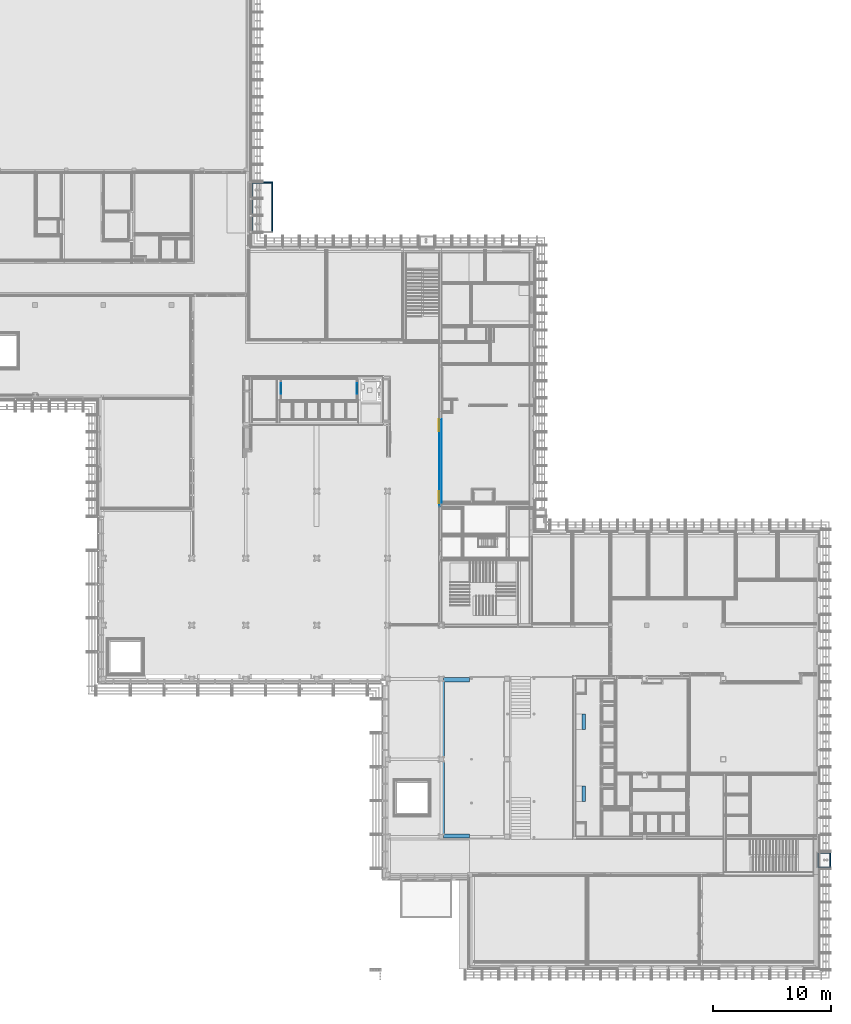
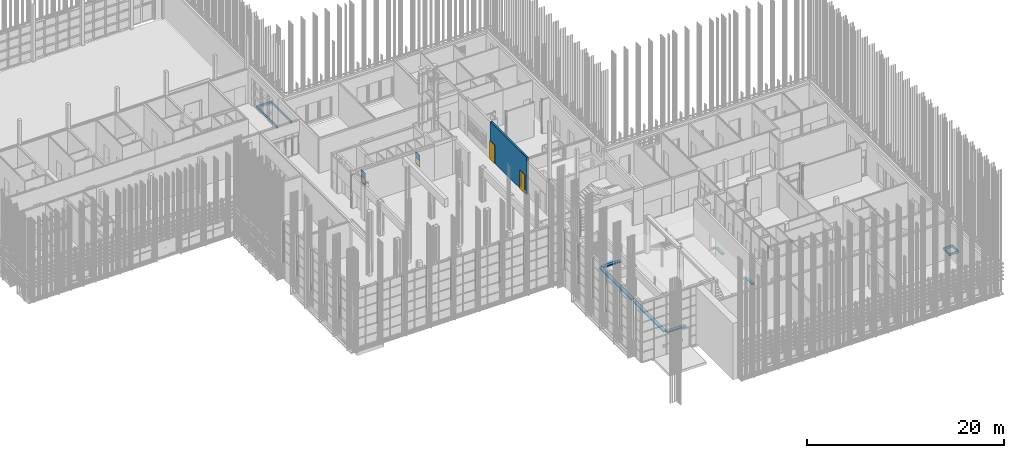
# One storey, part 58 of 260: 10 building element parts, 7 walls, 5 stairs, 4 doors, 4 openings, 3 elements without a shape of their own.
"""IFC2X3 building model written with IfcOpenShell, lengths in millimetres."""

from ifc_helpers import new_model, entity, si_unit, converted_unit, derived_unit, money_unit, direction, frame, origin_with_axes, place, context, subcontext, project, spatial, faceted_brep, source, transform, mapped, material, type_object, element, fill, aggregate, save


model = new_model("IFC2X3")

# Units and contexts
model_context = context("Model", 3, precision=0.01, world=origin_with_axes(), true_north=direction((0.0, 1.0)))
body_context = subcontext(model_context, "Body", "Model", "MODEL_VIEW")
ifc_project = project(units=[si_unit("LENGTHUNIT", "METRE", prefix="MILLI"), si_unit("AREAUNIT", "SQUARE_METRE"), si_unit("VOLUMEUNIT", "CUBIC_METRE"), converted_unit("PLANEANGLEUNIT", "DEGREE", entity("IfcPlaneAngleMeasure", 0.0174532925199), si_unit("PLANEANGLEUNIT", "RADIAN"), dimensions=[0, 0, 0, 0, 0, 0, 0]), money_unit("EUR"), converted_unit("TIMEUNIT", "Year", entity("IfcTimeMeasure", 31556926.0), si_unit("TIMEUNIT", "SECOND"), dimensions=[0, 0, 1, 0, 0, 0, 0]), si_unit("MASSUNIT", "GRAM", prefix="KILO"), si_unit("THERMODYNAMICTEMPERATUREUNIT", "DEGREE_CELSIUS"), si_unit("LUMINOUSINTENSITYUNIT", "LUMEN"), si_unit("ENERGYUNIT", "JOULE", prefix="MEGA"), derived_unit("THERMALCONDUCTANCEUNIT", [(si_unit("POWERUNIT", "WATT"), 1), (si_unit("LENGTHUNIT", "METRE"), -1), (si_unit("THERMODYNAMICTEMPERATUREUNIT", "KELVIN"), -1)]), derived_unit("SPECIFICHEATCAPACITYUNIT", [(si_unit("ENERGYUNIT", "JOULE"), 1), (si_unit("MASSUNIT", "GRAM", prefix="KILO"), -1), (si_unit("THERMODYNAMICTEMPERATUREUNIT", "KELVIN"), -1)]), derived_unit("MASSDENSITYUNIT", [(si_unit("MASSUNIT", "GRAM", prefix="KILO"), 1), (si_unit("VOLUMEUNIT", "CUBIC_METRE"), -1)])], contexts=[model_context])

# Site, building, storey
site_placement = place(None, origin_with_axes())
site = spatial("IfcSite", under=ifc_project, at=site_placement, Name="Kolde pst 67a", CompositionType="ELEMENT")
building_placement = place(site_placement, origin_with_axes())
building = spatial("IfcBuilding", under=site, at=building_placement, Name="Riigigümnaasium", CompositionType="ELEMENT")
storey_placement = place(building_placement, origin_with_axes())
storey = spatial("IfcBuildingStorey", under=building, at=storey_placement, Name="1. korrus", CompositionType="ELEMENT", Elevation=0.0)

# Door
door_style_1 = type_object("IfcDoorStyle", Name="Door 25", ConstructionType="NOTDEFINED", OperationType="SINGLE_SWING_LEFT", ParameterTakesPrecedence=False, Sizeable=False)
shared_shape_1 = source(origin_with_axes(), body_context, "Body", "Brep", [
    faceted_brep([(320.0, -40.0, 0.0), (320.0, -50.0, 0.0), (320.0, -50.0, 670.0), (320.0, -40.0, 670.0), (332.0, -40.0, 0.0), (332.0, 0.0, 0.0), (350.0, 0.0, 0.0), (350.0, -50.0, 0.0), (350.0, -50.0, 670.0), (332.0, -40.0, 670.0), (350.0, 0.0, 670.0), (332.0, 0.0, 670.0)], [[[0, 1, 2, 3]], [[4, 5, 6, 7, 1, 0]], [[1, 7, 8, 2]], [[9, 3, 2, 8, 10, 11]], [[9, 4, 0, 3]], [[11, 5, 4, 9]], [[11, 10, 6, 5]], [[6, 10, 8, 7]]]),
    faceted_brep([(-332.0, -40.0, 670.0), (-332.0, 0.0, 670.0), (-350.0, 0.0, 670.0), (-350.0, -50.0, 670.0), (-320.0, -50.0, 670.0), (-320.0, -40.0, 670.0), (-332.0, -40.0, 0.0), (-332.0, 0.0, 0.0), (-350.0, 0.0, 0.0), (-350.0, -50.0, 0.0), (-320.0, -50.0, 0.0), (-320.0, -40.0, 0.0)], [[[0, 1, 2, 3, 4, 5]], [[0, 6, 7, 1]], [[7, 8, 2, 1]], [[2, 8, 9, 3]], [[3, 9, 10, 4]], [[5, 4, 10, 11]], [[5, 11, 6, 0]], [[6, 11, 10, 9, 8, 7]]]),
    faceted_brep([(332.0, 0.0, 682.0), (-332.0, 0.0, 682.0), (-332.0, 0.0, 670.0), (-350.0, 0.0, 670.0), (-350.0, 0.0, 700.0), (350.0, 0.0, 700.0), (350.0, 0.0, 670.0), (332.0, 0.0, 670.0), (332.0, -40.0, 682.0), (-332.0, -40.0, 682.0), (-332.0, -40.0, 670.0), (-320.0, -40.0, 670.0), (-320.0, -50.0, 670.0), (-350.0, -50.0, 670.0), (-350.0, -50.0, 700.0), (350.0, -50.0, 700.0), (350.0, -50.0, 670.0), (332.0, -40.0, 670.0), (320.0, -50.0, 670.0), (320.0, -40.0, 670.0)], [[[0, 1, 2, 3, 4, 5, 6, 7]], [[0, 8, 9, 1]], [[1, 9, 10, 2]], [[10, 11, 12, 13, 3, 2]], [[4, 3, 13, 14]], [[5, 4, 14, 15]], [[6, 5, 15, 16]], [[17, 7, 6, 16, 18, 19]], [[7, 17, 8, 0]], [[10, 9, 8, 17, 19, 11]], [[19, 18, 12, 11]], [[12, 18, 16, 15, 14, 13]]]),
    faceted_brep([(-332.0, 0.0, 0.0), (332.0, 0.0, 0.0), (332.0, -40.0, 0.0), (-332.0, -40.0, 0.0), (-332.0, 0.0, 682.0), (332.0, 0.0, 682.0), (332.0, -40.0, 682.0), (-332.0, -40.0, 682.0)], [[[0, 1, 2, 3]], [[0, 4, 5, 1]], [[1, 5, 6, 2]], [[3, 2, 6, 7]], [[4, 0, 3, 7]], [[5, 4, 7, 6]]]),
])
wall_8_placement = place(storey_placement, frame((45614.9854607, 49219.999951, 0.0), z_axis=(0.0, 0.0, 1.0), x_axis=(0.0, -1.0, 0.0)))
opening_1_placement = place(wall_8_placement, frame((450.0, 0.0, 100.0), z_axis=(0.0, 0.0, 1.0), x_axis=(1.0, 0.0, 0.0)))
door_1_placement = place(opening_1_placement, frame((350.0, 0.0, 0.0), z_axis=(0.0, 0.0, 1.0), x_axis=(-1.0, 0.0, 0.0)))
door_1 = element("IfcDoor", 1, at=door_1_placement, inside=storey, type_object=door_style_1, Name="Hooldusluuk vastavalt SA osale", ObjectType="DOOR", OverallHeight=700.0, OverallWidth=700.0, context=body_context, shape_type="MappedRepresentation", body=[
    mapped(shared_shape_1, transform((350.0, 0.0, 0.0))),
])

door_style_2 = type_object("IfcDoorStyle", Name="Door 25", ConstructionType="NOTDEFINED", OperationType="SINGLE_SWING_RIGHT", ParameterTakesPrecedence=False, Sizeable=False)
shared_shape_2 = source(origin_with_axes(), body_context, "Body", "Brep", [
    faceted_brep([(-320.0, -40.0, 0.0), (-320.0, -40.0, 670.0), (-320.0, -50.0, 670.0), (-320.0, -50.0, 0.0), (-332.0, -40.0, 670.0), (-332.0, -40.0, 0.0), (-332.0, 0.0, 670.0), (-350.0, 0.0, 670.0), (-350.0, -50.0, 670.0), (-350.0, -50.0, 0.0), (-350.0, 0.0, 0.0), (-332.0, 0.0, 0.0)], [[[0, 1, 2, 3]], [[4, 1, 0, 5]], [[4, 6, 7, 8, 2, 1]], [[3, 2, 8, 9]], [[5, 0, 3, 9, 10, 11]], [[6, 4, 5, 11]], [[6, 11, 10, 7]], [[10, 9, 8, 7]]]),
    faceted_brep([(332.0, -40.0, 670.0), (320.0, -40.0, 670.0), (320.0, -50.0, 670.0), (350.0, -50.0, 670.0), (350.0, 0.0, 670.0), (332.0, 0.0, 670.0), (332.0, -40.0, 0.0), (320.0, -40.0, 0.0), (320.0, -50.0, 0.0), (350.0, -50.0, 0.0), (350.0, 0.0, 0.0), (332.0, 0.0, 0.0)], [[[0, 1, 2, 3, 4, 5]], [[1, 0, 6, 7]], [[1, 7, 8, 2]], [[3, 2, 8, 9]], [[4, 3, 9, 10]], [[11, 5, 4, 10]], [[0, 5, 11, 6]], [[6, 11, 10, 9, 8, 7]]]),
    faceted_brep([(-332.0, 0.0, 682.0), (-332.0, 0.0, 670.0), (-350.0, 0.0, 670.0), (-350.0, 0.0, 700.0), (350.0, 0.0, 700.0), (350.0, 0.0, 670.0), (332.0, 0.0, 670.0), (332.0, 0.0, 682.0), (-332.0, -40.0, 682.0), (-332.0, -40.0, 670.0), (-320.0, -40.0, 670.0), (-320.0, -50.0, 670.0), (-350.0, -50.0, 670.0), (-350.0, -50.0, 700.0), (350.0, -50.0, 700.0), (350.0, -50.0, 670.0), (332.0, -40.0, 670.0), (320.0, -50.0, 670.0), (320.0, -40.0, 670.0), (332.0, -40.0, 682.0)], [[[0, 1, 2, 3, 4, 5, 6, 7]], [[1, 0, 8, 9]], [[9, 10, 11, 12, 2, 1]], [[2, 12, 13, 3]], [[3, 13, 14, 4]], [[4, 14, 15, 5]], [[16, 6, 5, 15, 17, 18]], [[7, 6, 16, 19]], [[0, 7, 19, 8]], [[16, 18, 10, 9, 8, 19]], [[10, 18, 17, 11]], [[17, 15, 14, 13, 12, 11]]]),
    faceted_brep([(332.0, 0.0, 0.0), (332.0, -40.0, 0.0), (-332.0, -40.0, 0.0), (-332.0, 0.0, 0.0), (332.0, 0.0, 682.0), (332.0, -40.0, 682.0), (-332.0, -40.0, 682.0), (-332.0, 0.0, 682.0)], [[[0, 1, 2, 3]], [[4, 5, 1, 0]], [[1, 5, 6, 2]], [[3, 2, 6, 7]], [[0, 3, 7, 4]], [[7, 6, 5, 4]]]),
])
wall_9_placement = place(storey_placement, frame((39269.8305056, 49219.9999658, 0.0), z_axis=(0.0, 0.0, 1.0), x_axis=(0.0, -1.0, 0.0)))
opening_2_placement = place(wall_9_placement, frame((450.0, 0.0, 100.0), z_axis=(0.0, 0.0, 1.0), x_axis=(1.0, 0.0, 0.0)))
door_2_placement = place(opening_2_placement, frame((-350.0, 0.0, 0.0), z_axis=(0.0, 0.0, 1.0), x_axis=(1.0, 0.0, 0.0)))
door_2 = element("IfcDoor", 2, at=door_2_placement, inside=storey, type_object=door_style_2, Name="Hooldusluuk vastavalt SA osale", ObjectType="DOOR", OverallHeight=700.0, OverallWidth=700.0, context=body_context, shape_type="MappedRepresentation", body=[
    mapped(shared_shape_2, transform((350.0, 0.0, 0.0))),
])

# Walls
ifc_material_1 = material(Name="_KANDETARIND - monoliitne raudbetoon vastavalt EK osale")
wall_type_1 = type_object("IfcWallType", Name="_KANDETARIND - monoliitne raudbetoon vastavalt EK osale 100", PredefinedType="NOTDEFINED")
wall_1_placement = place(storey_placement, frame((38551.9992299, 66207.4898717, -302.0), z_axis=(0.0, 0.0, 1.0), x_axis=(-0.999999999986, -5.37580937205e-06, 0.0)))
element("IfcWall", 3, at=wall_1_placement, inside=storey, type_object=wall_type_1, material=ifc_material_1, Name="Porivann, monoliitne raudbetoon vastavalt EK osale", context=body_context, shape_type="Brep", body=[
    faceted_brep([(1799.99999997, 100.0, 0.0), (1799.99999997, 0.0, 0.0), (0.0, 0.0, 0.0), (0.0, 100.0, 0.0), (1799.99999997, 100.0, 280.0), (1799.99999997, 0.0, 280.0), (0.0, 0.0, 280.0), (0.0, 100.0, 280.0)], [[[0, 1, 2, 3]], [[1, 0, 4, 5]], [[1, 5, 6, 2]], [[7, 3, 2, 6]], [[4, 0, 3, 7]], [[5, 4, 7, 6]]]),
])
wall_2_placement = place(storey_placement, frame((36751.99923, 66207.4801952, -302.0), z_axis=(0.0, 0.0, 1.0), x_axis=(5.37580938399e-06, -0.999999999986, 0.0)))
element("IfcWall", 4, at=wall_2_placement, inside=storey, type_object=wall_type_1, material=ifc_material_1, Name="Porivann, monoliitne raudbetoon vastavalt EK osale", context=body_context, shape_type="Brep", body=[
    faceted_brep([(4289.60655819, 100.0, 0.0), (4289.60655819, 0.0, 0.0), (100.0, 0.0, 0.0), (100.0, 100.0, 0.0), (4289.60655819, 100.0, 280.0), (4289.60655819, 0.0, 280.0), (100.0, 0.0, 280.0), (100.0, 100.0, 280.0)], [[[0, 1, 2, 3]], [[1, 0, 4, 5]], [[1, 5, 6, 2]], [[7, 3, 2, 6]], [[4, 0, 3, 7]], [[5, 4, 7, 6]]]),
])
wall_3_placement = place(storey_placement, frame((38552.0222901, 61917.8833136, -302.0), z_axis=(0.0, 0.0, 1.0), x_axis=(-5.37580937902e-06, 0.999999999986, 0.0)))
element("IfcWall", 5, at=wall_3_placement, inside=storey, type_object=wall_type_1, material=ifc_material_1, Name="Porivann, monoliitne raudbetoon vastavalt EK osale", context=body_context, shape_type="Brep", body=[
    faceted_brep([(4189.60655819, 100.0, 0.0), (4189.60655819, 0.0, 0.0), (100.0, 0.0, 0.0), (100.0, 100.0, 0.0), (4189.60655819, 100.0, 280.0), (4189.60655819, 0.0, 280.0), (100.0, 0.0, 280.0), (100.0, 100.0, 280.0)], [[[0, 1, 2, 3]], [[1, 0, 4, 5]], [[1, 5, 6, 2]], [[7, 3, 2, 6]], [[4, 0, 3, 7]], [[5, 4, 7, 6]]]),
])
wall_4_placement = place(storey_placement, frame((85671.3335142, 9600.02374395, -302.0), z_axis=(0.0, 0.0, 1.0), x_axis=(-0.999999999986, -5.37580938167e-06, 0.0)))
element("IfcWall", 6, at=wall_4_placement, inside=storey, type_object=wall_type_1, material=ifc_material_1, Name="Porivann, monoliitne raudbetoon vastavalt EK osale", context=body_context, shape_type="Brep", body=[
    faceted_brep([(1119.96722448, 100.0, 0.0), (1119.96722448, 0.0, 0.0), (0.0, 0.0, 0.0), (0.0, 100.0, 0.0), (1119.96722448, 100.0, 280.0), (1119.96722448, 0.0, 280.0), (0.0, 0.0, 280.0), (0.0, 100.0, 280.0)], [[[0, 1, 2, 3]], [[1, 0, 4, 5]], [[1, 5, 6, 2]], [[7, 3, 2, 6]], [[4, 0, 3, 7]], [[5, 4, 7, 6]]]),
])
wall_5_placement = place(storey_placement, frame((84551.3662897, 9600.01772322, -302.0), z_axis=(0.0, 0.0, 1.0), x_axis=(5.3758093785e-06, -0.999999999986, 0.0)))
element("IfcWall", 7, at=wall_5_placement, inside=storey, type_object=wall_type_1, material=ifc_material_1, Name="Porivann, monoliitne raudbetoon vastavalt EK osale", context=body_context, shape_type="Brep", body=[
    faceted_brep([(1310.0000002, 100.0, 0.0), (1310.0000002, 0.0, 0.0), (100.0, 0.0, 0.0), (100.0, 100.0, 0.0), (1310.0000002, 100.0, 280.0), (1310.0000002, 0.0, 280.0), (100.0, 0.0, 280.0), (100.0, 100.0, 280.0)], [[[0, 1, 2, 3]], [[1, 0, 4, 5]], [[1, 5, 6, 2]], [[7, 3, 2, 6]], [[4, 0, 3, 7]], [[5, 4, 7, 6]]]),
])
wall_6_placement = place(storey_placement, frame((84551.373332, 8290.01772304, -302.0), z_axis=(0.0, 0.0, 1.0), x_axis=(0.999999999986, 5.37580939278e-06, 0.0)))
element("IfcWall", 8, at=wall_6_placement, inside=storey, type_object=wall_type_1, material=ifc_material_1, Name="Porivann, monoliitne raudbetoon vastavalt EK osale", context=body_context, shape_type="Brep", body=[
    faceted_brep([(1119.96722448, 99.9939792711, 0.0), (1119.96722448, -0.00602073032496, 0.0), (100.0, -0.000537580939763, 0.0), (100.0, 99.9994624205, 0.0), (1119.96722448, 99.9939792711, 280.0), (1119.96722448, -0.00602073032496, 280.0), (100.0, -0.000537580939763, 280.0), (100.0, 99.9994624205, 280.0)], [[[0, 1, 2, 3]], [[1, 0, 4, 5]], [[1, 5, 6, 2]], [[7, 3, 2, 6]], [[4, 0, 3, 7]], [[5, 4, 7, 6]]]),
])
wall_7_placement = place(storey_placement, frame((85671.3405565, 8290.02374377, -302.0), z_axis=(0.0, 0.0, 1.0), x_axis=(-5.3758093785e-06, 0.999999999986, 0.0)))
element("IfcWall", 9, at=wall_7_placement, inside=storey, type_object=wall_type_1, material=ifc_material_1, Name="Porivann, monoliitne raudbetoon vastavalt EK osale", context=body_context, shape_type="Brep", body=[
    faceted_brep([(1210.0000002, 100.0, 0.0), (1210.0000002, 0.0, 0.0), (100.0, 0.0, 0.0), (100.0, 100.0, 0.0), (1210.0000002, 100.0, 280.0), (1210.0000002, 0.0, 280.0), (100.0, 0.0, 280.0), (100.0, 100.0, 280.0)], [[[0, 1, 2, 3]], [[1, 0, 4, 5]], [[1, 5, 6, 2]], [[7, 3, 2, 6]], [[4, 0, 3, 7]], [[5, 4, 7, 6]]]),
])

# Door
door_style_3 = type_object("IfcDoorStyle", Name="Exterior Sliding Door 25", ConstructionType="NOTDEFINED", OperationType="SLIDING_TO_LEFT", ParameterTakesPrecedence=False, Sizeable=False)
shared_shape_3 = source(origin_with_axes(), body_context, "Body", "Brep", [
    faceted_brep([(480.0, 5.0, 940.0), (480.0, -5.0, 940.0), (420.0, -5.0, 940.0), (420.0, 5.0, 940.0), (480.0, 5.0, 1060.0), (480.0, -5.0, 1060.0), (420.0, -5.0, 1060.0), (470.0, -5.0, 955.0), (430.0, -5.0, 955.0), (430.0, -5.0, 1045.0), (470.0, -5.0, 1045.0), (420.0, 5.0, 1060.0), (470.0, 5.0, 955.0), (470.0, 5.0, 1045.0), (430.0, 5.0, 1045.0), (430.0, 5.0, 955.0)], [[[0, 1, 2, 3]], [[4, 5, 1, 0]], [[1, 5, 6, 2], [7, 8, 9, 10]], [[3, 2, 6, 11]], [[0, 3, 11, 4], [12, 13, 14, 15]], [[11, 6, 5, 4]], [[15, 8, 7, 12]], [[14, 9, 8, 15]], [[13, 10, 9, 14]], [[12, 7, 10, 13]]]),
    faceted_brep([(470.0, 5.0, 955.0), (470.0, -5.0, 955.0), (430.0, 2.0, 955.0), (430.0, 5.0, 955.0), (470.0, 5.0, 1045.0), (470.0, -5.0, 1045.0), (430.0, 2.0, 1045.0), (430.0, 5.0, 1045.0)], [[[0, 1, 2, 3]], [[4, 5, 1, 0]], [[1, 5, 6, 2]], [[3, 2, 6, 7]], [[0, 3, 7, 4]], [[7, 6, 5, 4]]]),
    faceted_brep([(480.0, 45.0, 940.0), (420.0, 45.0, 940.0), (420.0, 55.0, 940.0), (480.0, 55.0, 940.0), (480.0, 45.0, 1060.0), (420.0, 45.0, 1060.0), (470.0, 45.0, 955.0), (430.0, 45.0, 955.0), (430.0, 45.0, 1045.0), (470.0, 45.0, 1045.0), (420.0, 55.0, 1060.0), (480.0, 55.0, 1060.0), (470.0, 55.0, 955.0), (470.0, 55.0, 1045.0), (430.0, 55.0, 1045.0), (430.0, 55.0, 955.0)], [[[0, 1, 2, 3]], [[0, 4, 5, 1], [6, 7, 8, 9]], [[1, 5, 10, 2]], [[3, 2, 10, 11], [12, 13, 14, 15]], [[4, 0, 3, 11]], [[5, 4, 11, 10]], [[7, 6, 12, 15]], [[8, 7, 15, 14]], [[9, 8, 14, 13]], [[6, 9, 13, 12]]]),
    faceted_brep([(470.0, 45.0, 955.0), (430.0, 45.0, 955.0), (430.0, 48.0, 955.0), (470.0, 55.0, 955.0), (470.0, 45.0, 1045.0), (430.0, 45.0, 1045.0), (430.0, 48.0, 1045.0), (470.0, 55.0, 1045.0)], [[[0, 1, 2, 3]], [[0, 4, 5, 1]], [[1, 5, 6, 2]], [[3, 2, 6, 7]], [[4, 0, 3, 7]], [[5, 4, 7, 6]]]),
    faceted_brep([(-500.0, 45.0, 0.0), (500.0, 45.0, 0.0), (500.0, 5.0, 0.0), (-500.0, 5.0, 0.0), (-500.0, 45.0, 2300.0), (500.0, 45.0, 2300.0), (500.0, 5.0, 2300.0), (-500.0, 5.0, 2300.0)], [[[0, 1, 2, 3]], [[0, 4, 5, 1]], [[1, 5, 6, 2]], [[3, 2, 6, 7]], [[4, 0, 3, 7]], [[5, 4, 7, 6]]]),
])
wall_10_placement = place(storey_placement, frame((52829.9941222, 46149.9999914, 0.0), z_axis=(0.0, 0.0, 1.0), x_axis=(0.0, -1.0, 0.0)))
opening_3_placement = place(wall_10_placement, frame((6561.60544355, 0.0, 0.0), z_axis=(0.0, 0.0, 1.0), x_axis=(1.0, 0.0, 0.0)))
door_3_placement = place(opening_3_placement, frame((500.0, 0.0, 0.0), z_axis=(0.0, 0.0, 1.0), x_axis=(-1.0, 0.0, 0.0)))
door_3 = element("IfcDoor", 10, at=door_3_placement, inside=storey, type_object=door_style_3, Name="Siseuks", ObjectType="DOOR", OverallHeight=2300.0, OverallWidth=1000.0, context=body_context, shape_type="MappedRepresentation", body=[
    mapped(shared_shape_3, transform((500.0, 240.0, 0.0))),
])

opening_4_placement = place(wall_10_placement, frame((500.0, 0.0, 0.0), z_axis=(0.0, 0.0, 1.0), x_axis=(1.0, 0.0, 0.0)))
door_4_placement = place(opening_4_placement, frame((500.0, 0.0, 0.0), z_axis=(0.0, 0.0, 1.0), x_axis=(-1.0, 0.0, 0.0)))
door_4 = element("IfcDoor", 11, at=door_4_placement, inside=storey, type_object=door_style_3, Name="Siseuks", ObjectType="DOOR", OverallHeight=2300.0, OverallWidth=1000.0, context=body_context, shape_type="MappedRepresentation", body=[
    mapped(shared_shape_3, transform((500.0, 240.0, 0.0))),
])

# Stairs
ifc_material_2 = material(Name="_KANDETARIND - monoliitne raudbetoonplaat")
stair_1_placement = place(storey_placement, frame((52659.9941007, 11089.9619407, -150.0), z_axis=(0.0, 0.0, 1.0), x_axis=(1.0, 0.0, 0.0)))
element("IfcStair", 12, at=stair_1_placement, inside=storey, material=ifc_material_2, Name="Aste", ShapeType="NOTDEFINED", context=body_context, shape_type="Brep", body=[
    faceted_brep([(0.0, 0.0, 0.0), (0.0, 0.0, -150.0), (370.000005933, 0.0, -150.0), (370.000005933, 0.0, 0.0), (0.0, 6170.03803351, 0.0), (0.0, 6170.03803351, -150.0), (370.000005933, 6170.03803351, -150.0), (370.000005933, 6170.03803351, 0.0)], [[[0, 1, 2, 3]], [[4, 5, 1, 0]], [[2, 1, 5, 6]], [[3, 2, 6, 7]], [[4, 0, 3, 7]], [[7, 6, 5, 4]]]),
])
stair_2_placement = place(storey_placement, frame((52659.9941222, 17639.9999739, -150.0), z_axis=(0.0, 0.0, 1.0), x_axis=(1.0, 0.0, 0.0)))
element("IfcStair", 13, at=stair_2_placement, inside=storey, material=ifc_material_2, Name="Aste", ShapeType="NOTDEFINED", context=body_context, shape_type="Brep", body=[
    faceted_brep([(0.0, 0.0, 0.0), (0.0, 0.0, -150.0), (369.999984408, 0.0, -150.0), (369.999984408, 0.0, 0.0), (0.0, 6400.0380618, 0.0), (0.0, 6400.0380618, -150.0), (310.000038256, 6400.0380618, -150.0), (310.000038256, 6709.99656003, -150.0), (2509.98799005, 6709.99656003, -150.0), (2509.98799005, 6349.99658318, -150.0), (369.999984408, 6349.99658318, -150.0), (369.999984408, 6349.99658318, 0.0), (2509.98799005, 6349.99658318, 0.0), (2509.98799005, 6709.99656003, 0.0), (310.000038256, 6709.99656003, 0.0), (310.000038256, 6400.0380618, 0.0)], [[[0, 1, 2, 3]], [[4, 5, 1, 0]], [[2, 1, 5, 6, 7, 8, 9, 10]], [[3, 2, 10, 11]], [[4, 0, 3, 11, 12, 13, 14, 15]], [[15, 6, 5, 4]], [[14, 7, 6, 15]], [[13, 8, 7, 14]], [[12, 9, 8, 13]], [[11, 10, 9, 12]]]),
])
ifc_material_3 = material(Name="_PEALEVALUKIHT - raudbetoon plaat, C25/30, XF2")
stair_3_placement = place(storey_placement, frame((55169.7609261, 10779.9619416, -150.0), z_axis=(0.0, 0.0, 1.0), x_axis=(1.0, 0.0, 0.0)))
element("IfcStair", 14, at=stair_3_placement, inside=storey, material=ifc_material_3, Name="Aste", ShapeType="NOTDEFINED", context=body_context, shape_type="Brep", body=[
    faceted_brep([(0.0, 0.0, 0.0), (0.0, 0.0, -150.0), (0.0, 369.999999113, -150.0), (0.0, 369.999999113, 0.0), (-2199.76680385, 0.0, 0.0), (-2199.76680385, 0.0, -150.0), (-2199.76680385, 369.999999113, -150.0), (-2199.76680385, 369.999999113, 0.0)], [[[0, 1, 2, 3]], [[4, 5, 1, 0]], [[2, 1, 5, 6]], [[3, 2, 6, 7]], [[4, 0, 3, 7]], [[7, 6, 5, 4]]]),
])
stair_4_placement = place(storey_placement, frame((64939.8555372, 21270.0313204, -150.0), z_axis=(0.0, 0.0, 1.0), x_axis=(1.0, 0.0, 0.0)))
element("IfcStair", 15, at=stair_4_placement, inside=storey, material=ifc_material_3, Name="Aste", ShapeType="NOTDEFINED", context=body_context, shape_type="Brep", body=[
    faceted_brep([(0.0, 0.0, 0.0), (0.0, 0.0, -150.0), (-299.999999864, -0.00902386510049, -150.0), (-299.999999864, -0.00902386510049, 0.0), (0.039102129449, -1299.95724717, 0.0), (0.039102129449, -1299.95724717, -150.0), (-299.960897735, -1299.96627104, -150.0), (-299.960897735, -1299.96627104, 0.0)], [[[0, 1, 2, 3]], [[4, 5, 1, 0]], [[2, 1, 5, 6]], [[3, 2, 6, 7]], [[4, 0, 3, 7]], [[7, 6, 5, 4]]]),
])
stair_5_placement = place(storey_placement, frame((64939.9488957, 15169.986307, -150.0), z_axis=(0.0, 0.0, 1.0), x_axis=(1.0, 0.0, 0.0)))
element("IfcStair", 16, at=stair_5_placement, inside=storey, material=ifc_material_3, Name="Aste", ShapeType="NOTDEFINED", context=body_context, shape_type="Brep", body=[
    faceted_brep([(0.0, 0.0, 0.0), (0.0, 0.0, -150.0), (-299.999999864, -0.00902386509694, -150.0), (-299.999999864, -0.00902386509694, 0.0), (0.0391034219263, -1300.00021578, 0.0), (0.0391034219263, -1300.00021578, -150.0), (-299.960896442, -1300.00923964, -150.0), (-299.960896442, -1300.00923964, 0.0)], [[[0, 1, 2, 3]], [[4, 5, 1, 0]], [[2, 1, 5, 6]], [[3, 2, 6, 7]], [[4, 0, 3, 7]], [[7, 6, 5, 4]]]),
])

# Wall, opening
wall_type_2 = type_object("IfcWallType", Name="SS-MK-10/11_kollektorvarisein plaaditud 40", PredefinedType="NOTDEFINED")
wall_8 = element("IfcWall", 17, at=wall_8_placement, inside=storey, type_object=wall_type_2, Name="Sisesein")
opening_1 = element("IfcOpeningElement", 18, at=opening_1_placement, cuts=wall_8, Name="Hooldusluuk vastavalt SA osale", context=body_context, shape_type="Brep", body=[
    faceted_brep([(350.0, -80.0, 700.0), (350.0, -80.0, 0.0), (350.0, 40.0, 0.0), (350.0, 40.0, 700.0), (-350.0, -80.0, 700.0), (-350.0, -80.0, 0.0), (-350.0, 40.0, 0.0), (-350.0, 40.0, 700.0)], [[[0, 1, 2, 3]], [[0, 4, 5, 1]], [[1, 5, 6, 2]], [[3, 2, 6, 7]], [[4, 0, 3, 7]], [[5, 4, 7, 6]]]),
])

fill(opening_1, door_1)

# Building element part
ifc_material_4 = material(Name="_PLAATMATERJAL - kipsplaat veekindel")
building_element_part_1_placement = place(wall_8_placement, origin_with_axes())
building_element_part_1 = element("IfcBuildingElementPart", 19, at=building_element_part_1_placement, material=ifc_material_4, Name="_PLAATMATERJAL - kipsplaat veekindel", context=body_context, shape_type="Brep", body=[
    faceted_brep([(900.000018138, 27.5, 1500.0), (0.0, 27.5, 1500.0), (0.0, 27.5, 0.0), (900.000018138, 27.5, 0.0), (800.0, 27.5, 100.0), (100.0, 27.5, 100.0), (100.0, 27.5, 800.0), (800.0, 27.5, 800.0), (900.000018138, 40.0, 1500.0), (0.0, 40.0, 1500.0), (0.0, 40.0, 0.0), (900.000018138, 40.0, 0.0), (800.0, 40.0, 100.0), (100.0, 40.0, 100.0), (100.0, 40.0, 800.0), (800.0, 40.0, 800.0)], [[[0, 1, 2, 3], [4, 5, 6, 7]], [[8, 9, 1, 0]], [[2, 1, 9, 10]], [[3, 2, 10, 11]], [[8, 0, 3, 11]], [[12, 13, 5, 4]], [[13, 14, 6, 5]], [[14, 15, 7, 6]], [[15, 12, 4, 7]], [[11, 10, 9, 8], [12, 15, 14, 13]]]),
])

building_element_part_2_placement = place(wall_8_placement, origin_with_axes())
building_element_part_2 = element("IfcBuildingElementPart", 20, at=building_element_part_2_placement, material=ifc_material_4, Name="_PLAATMATERJAL - kipsplaat veekindel", context=body_context, shape_type="Brep", body=[
    faceted_brep([(900.000018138, 15.0, 1500.0), (0.0, 15.0, 1500.0), (0.0, 15.0, 0.0), (900.000018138, 15.0, 0.0), (800.0, 15.0, 100.0), (100.0, 15.0, 100.0), (100.0, 15.0, 800.0), (800.0, 15.0, 800.0), (900.000018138, 27.5, 1500.0), (0.0, 27.5, 1500.0), (0.0, 27.5, 0.0), (900.000018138, 27.5, 0.0), (800.0, 27.5, 100.0), (100.0, 27.5, 100.0), (100.0, 27.5, 800.0), (800.0, 27.5, 800.0)], [[[0, 1, 2, 3], [4, 5, 6, 7]], [[8, 9, 1, 0]], [[2, 1, 9, 10]], [[3, 2, 10, 11]], [[8, 0, 3, 11]], [[12, 13, 5, 4]], [[13, 14, 6, 5]], [[14, 15, 7, 6]], [[15, 12, 4, 7]], [[11, 10, 9, 8], [12, 15, 14, 13]]]),
])

ifc_material_5 = material(Name="_VIIMISTLUSKIHT - viimistlus vastavalt SA osale")
building_element_part_3_placement = place(wall_8_placement, origin_with_axes())
building_element_part_3 = element("IfcBuildingElementPart", 21, at=building_element_part_3_placement, material=ifc_material_5, Name="_VIIMISTLUSKIHT - viimistlus vastavalt SA osale", context=body_context, shape_type="Brep", body=[
    faceted_brep([(900.000018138, 0.0, 1500.0), (0.0, 0.0, 1500.0), (0.0, 0.0, 0.0), (900.000018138, 0.0, 0.0), (800.0, 0.0, 100.0), (100.0, 0.0, 100.0), (100.0, 0.0, 800.0), (800.0, 0.0, 800.0), (900.000018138, 15.0, 1500.0), (0.0, 15.0, 1500.0), (0.0, 15.0, 0.0), (900.000018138, 15.0, 0.0), (800.0, 15.0, 100.0), (100.0, 15.0, 100.0), (100.0, 15.0, 800.0), (800.0, 15.0, 800.0)], [[[0, 1, 2, 3], [4, 5, 6, 7]], [[8, 9, 1, 0]], [[2, 1, 9, 10]], [[3, 2, 10, 11]], [[8, 0, 3, 11]], [[12, 13, 5, 4]], [[13, 14, 6, 5]], [[14, 15, 7, 6]], [[15, 12, 4, 7]], [[11, 10, 9, 8], [12, 15, 14, 13]]]),
])

aggregate(wall_8, [building_element_part_1, building_element_part_2, building_element_part_3])

# Wall, opening
wall_9 = element("IfcWall", 22, at=wall_9_placement, inside=storey, type_object=wall_type_2, Name="Sisesein")
opening_2 = element("IfcOpeningElement", 23, at=opening_2_placement, cuts=wall_9, Name="Hooldusluuk vastavalt SA osale", context=body_context, shape_type="Brep", body=[
    faceted_brep([(350.0, -40.0, 700.0), (350.0, -40.0, 0.0), (350.0, 80.0, 0.0), (350.0, 80.0, 700.0), (-350.0, -40.0, 700.0), (-350.0, -40.0, 0.0), (-350.0, 80.0, 0.0), (-350.0, 80.0, 700.0)], [[[0, 1, 2, 3]], [[0, 4, 5, 1]], [[1, 5, 6, 2]], [[3, 2, 6, 7]], [[4, 0, 3, 7]], [[5, 4, 7, 6]]]),
])

fill(opening_2, door_2)

# Building element part
building_element_part_4_placement = place(wall_9_placement, origin_with_axes())
building_element_part_4 = element("IfcBuildingElementPart", 24, at=building_element_part_4_placement, material=ifc_material_5, Name="_VIIMISTLUSKIHT - viimistlus vastavalt SA osale", context=body_context, shape_type="Brep", body=[
    faceted_brep([(900.000018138, -15.0, 1500.0), (0.0, -15.0, 1500.0), (0.0, -15.0, 0.0), (900.000018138, -15.0, 0.0), (800.0, -15.0, 100.0), (100.0, -15.0, 100.0), (100.0, -15.0, 800.0), (800.0, -15.0, 800.0), (900.000018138, 0.0, 1500.0), (0.0, 0.0, 1500.0), (0.0, 0.0, 0.0), (900.000018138, 0.0, 0.0), (800.0, 0.0, 100.0), (100.0, 0.0, 100.0), (100.0, 0.0, 800.0), (800.0, 0.0, 800.0)], [[[0, 1, 2, 3], [4, 5, 6, 7]], [[8, 9, 1, 0]], [[9, 10, 2, 1]], [[3, 2, 10, 11]], [[3, 11, 8, 0]], [[12, 13, 5, 4]], [[13, 14, 6, 5]], [[14, 15, 7, 6]], [[15, 12, 4, 7]], [[11, 10, 9, 8], [12, 15, 14, 13]]]),
])

building_element_part_5_placement = place(wall_9_placement, origin_with_axes())
building_element_part_5 = element("IfcBuildingElementPart", 25, at=building_element_part_5_placement, material=ifc_material_4, Name="_PLAATMATERJAL - kipsplaat veekindel", context=body_context, shape_type="Brep", body=[
    faceted_brep([(900.000018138, -27.5, 1500.0), (0.0, -27.5, 1500.0), (0.0, -27.5, 0.0), (900.000018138, -27.5, 0.0), (800.0, -27.5, 100.0), (100.0, -27.5, 100.0), (100.0, -27.5, 800.0), (800.0, -27.5, 800.0), (900.000018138, -15.0, 1500.0), (0.0, -15.0, 1500.0), (0.0, -15.0, 0.0), (900.000018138, -15.0, 0.0), (800.0, -15.0, 100.0), (100.0, -15.0, 100.0), (100.0, -15.0, 800.0), (800.0, -15.0, 800.0)], [[[0, 1, 2, 3], [4, 5, 6, 7]], [[8, 9, 1, 0]], [[9, 10, 2, 1]], [[3, 2, 10, 11]], [[3, 11, 8, 0]], [[12, 13, 5, 4]], [[13, 14, 6, 5]], [[14, 15, 7, 6]], [[15, 12, 4, 7]], [[11, 10, 9, 8], [12, 15, 14, 13]]]),
])

building_element_part_6_placement = place(wall_9_placement, origin_with_axes())
building_element_part_6 = element("IfcBuildingElementPart", 26, at=building_element_part_6_placement, material=ifc_material_4, Name="_PLAATMATERJAL - kipsplaat veekindel", context=body_context, shape_type="Brep", body=[
    faceted_brep([(900.000018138, -40.0, 1500.0), (0.0, -40.0, 1500.0), (0.0, -40.0, 0.0), (900.000018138, -40.0, 0.0), (800.0, -40.0, 100.0), (100.0, -40.0, 100.0), (100.0, -40.0, 800.0), (800.0, -40.0, 800.0), (900.000018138, -27.5, 1500.0), (0.0, -27.5, 1500.0), (0.0, -27.5, 0.0), (900.000018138, -27.5, 0.0), (800.0, -27.5, 100.0), (100.0, -27.5, 100.0), (100.0, -27.5, 800.0), (800.0, -27.5, 800.0)], [[[0, 1, 2, 3], [4, 5, 6, 7]], [[8, 9, 1, 0]], [[9, 10, 2, 1]], [[3, 2, 10, 11]], [[3, 11, 8, 0]], [[12, 13, 5, 4]], [[13, 14, 6, 5]], [[14, 15, 7, 6]], [[15, 12, 4, 7]], [[11, 10, 9, 8], [12, 15, 14, 13]]]),
])

aggregate(wall_9, [building_element_part_4, building_element_part_5, building_element_part_6])

# Wall, opening
wall_type_3 = type_object("IfcWallType", Name="SS-RB-20/3_+krohv+dold 240", PredefinedType="NOTDEFINED")
wall_10 = element("IfcWall", 27, at=wall_10_placement, inside=storey, type_object=wall_type_3, Name="Sisesein")
opening_3 = element("IfcOpeningElement", 28, at=opening_3_placement, cuts=wall_10, Name="Siseuks", context=body_context, shape_type="Brep", body=[
    faceted_brep([(500.0, -480.0, 2300.0), (500.0, -480.0, 0.0), (500.0, 240.0, 0.0), (500.0, 240.0, 2300.0), (-500.0, -480.0, 2300.0), (-500.0, -480.0, 0.0), (-500.0, 240.0, 0.0), (-500.0, 240.0, 2300.0)], [[[0, 1, 2, 3]], [[0, 4, 5, 1]], [[1, 5, 6, 2]], [[3, 2, 6, 7]], [[4, 0, 3, 7]], [[5, 4, 7, 6]]]),
])

fill(opening_3, door_3)

# Opening
opening_4 = element("IfcOpeningElement", 29, at=opening_4_placement, cuts=wall_10, Name="Siseuks", context=body_context, shape_type="Brep", body=[
    faceted_brep([(500.0, -480.0, 2300.0), (500.0, -480.0, 0.0), (500.0, 240.0, 0.0), (500.0, 240.0, 2300.0), (-500.0, -480.0, 2300.0), (-500.0, -480.0, 0.0), (-500.0, 240.0, 0.0), (-500.0, 240.0, 2300.0)], [[[0, 1, 2, 3]], [[0, 4, 5, 1]], [[1, 5, 6, 2]], [[3, 2, 6, 7]], [[4, 0, 3, 7]], [[5, 4, 7, 6]]]),
])

fill(opening_4, door_4)

# Building element part
building_element_part_7_placement = place(wall_10_placement, origin_with_axes())
building_element_part_7 = element("IfcBuildingElementPart", 30, at=building_element_part_7_placement, material=ifc_material_5, Name="_VIIMISTLUSKIHT - viimistlus vastavalt SA osale", context=body_context, shape_type="Brep", body=[
    faceted_brep([(1000.0, 0.0, 0.0), (1000.0, 0.0, 2300.0), (0.0, 0.0, 2300.0), (0.0, 0.0, 4600.0), (7376.13222737, 0.0, 4600.0), (7376.13222737, 0.0, 0.0), (7061.60544355, 0.0, 0.0), (7061.60544355, 0.0, 2300.0), (6061.60544355, 0.0, 2300.0), (6061.60544355, 0.0, 0.0), (1000.0, -10.0, 0.0), (1000.0, -10.0, 2300.0), (0.0, -10.0, 2300.0), (0.0, -10.0, 4600.0), (7376.13222737, -10.0, 4600.0), (7376.13222737, -10.0, 0.0), (7061.60544355, -10.0, 0.0), (7061.60544355, -10.0, 2300.0), (6061.60544355, -10.0, 2300.0), (6061.60544355, -10.0, 0.0)], [[[0, 1, 2, 3, 4, 5, 6, 7, 8, 9]], [[1, 0, 10, 11]], [[12, 2, 1, 11]], [[2, 12, 13, 3]], [[3, 13, 14, 4]], [[5, 4, 14, 15]], [[6, 5, 15, 16]], [[6, 16, 17, 7]], [[7, 17, 18, 8]], [[8, 18, 19, 9]], [[10, 0, 9, 19]], [[11, 10, 19, 18, 17, 16, 15, 14, 13, 12]]]),
])

ifc_material_6 = material(Name="_KANDETARIND - monteeritav raudbetoon vastavalt EK osale")
building_element_part_8_placement = place(wall_10_placement, origin_with_axes())
building_element_part_8 = element("IfcBuildingElementPart", 31, at=building_element_part_8_placement, material=ifc_material_6, Name="_KANDETARIND - monteeritav raudbetoon vastavalt EK osale", context=body_context, shape_type="Brep", body=[
    faceted_brep([(1000.0, -10.0, 0.0), (1000.0, -10.0, 2300.0), (0.0, -10.0, 2300.0), (0.0, -10.0, 4600.0), (7376.13222737, -10.0, 4600.0), (7376.13222737, -10.0, 0.0), (7061.60544355, -10.0, 0.0), (7061.60544355, -10.0, 2300.0), (6061.60544355, -10.0, 2300.0), (6061.60544355, -10.0, 0.0), (1000.0, -210.0, 0.0), (1000.0, -210.0, 2300.0), (0.0, -210.0, 2300.0), (0.0, -210.0, 4600.0), (7376.13222737, -210.0, 4600.0), (7376.13222737, -210.0, 0.0), (7061.60544355, -210.0, 0.0), (7061.60544355, -210.0, 2300.0), (6061.60544355, -210.0, 2300.0), (6061.60544355, -210.0, 0.0)], [[[0, 1, 2, 3, 4, 5, 6, 7, 8, 9]], [[1, 0, 10, 11]], [[12, 2, 1, 11]], [[2, 12, 13, 3]], [[3, 13, 14, 4]], [[5, 4, 14, 15]], [[6, 5, 15, 16]], [[6, 16, 17, 7]], [[7, 17, 18, 8]], [[8, 18, 19, 9]], [[10, 0, 9, 19]], [[11, 10, 19, 18, 17, 16, 15, 14, 13, 12]]]),
])

ifc_material_7 = material(Name="_KARKASS - eriprofiilkinnitus vastavalt sisemisele plaatviimistlusele")
building_element_part_9_placement = place(wall_10_placement, origin_with_axes())
building_element_part_9 = element("IfcBuildingElementPart", 32, at=building_element_part_9_placement, material=ifc_material_7, Name="_KARKASS - eriprofiilkinnitus vastavalt sisemisele plaatviimistlusele", context=body_context, shape_type="Brep", body=[
    faceted_brep([(1000.0, -210.0, 0.0), (1000.0, -210.0, 2300.0), (0.0, -210.0, 2300.0), (0.0, -210.0, 4600.0), (7376.13222737, -210.0, 4600.0), (7376.13222737, -210.0, 0.0), (7061.60544355, -210.0, 0.0), (7061.60544355, -210.0, 2300.0), (6061.60544355, -210.0, 2300.0), (6061.60544355, -210.0, 0.0), (1000.0, -220.0, 0.0), (1000.0, -220.0, 2300.0), (0.0, -220.0, 2300.0), (0.0, -220.0, 4600.0), (7376.13222737, -220.0, 4600.0), (7376.13222737, -220.0, 0.0), (7061.60544355, -220.0, 0.0), (7061.60544355, -220.0, 2300.0), (6061.60544355, -220.0, 2300.0), (6061.60544355, -220.0, 0.0)], [[[0, 1, 2, 3, 4, 5, 6, 7, 8, 9]], [[1, 0, 10, 11]], [[12, 2, 1, 11]], [[2, 12, 13, 3]], [[3, 13, 14, 4]], [[5, 4, 14, 15]], [[6, 5, 15, 16]], [[6, 16, 17, 7]], [[7, 17, 18, 8]], [[8, 18, 19, 9]], [[10, 0, 9, 19]], [[11, 10, 19, 18, 17, 16, 15, 14, 13, 12]]]),
])

building_element_part_10_placement = place(wall_10_placement, origin_with_axes())
building_element_part_10 = element("IfcBuildingElementPart", 33, at=building_element_part_10_placement, material=ifc_material_5, Name="_VIIMISTLUSKIHT - viimistlus vastavalt SA osale", context=body_context, shape_type="Brep", body=[
    faceted_brep([(1000.0, -220.0, 0.0), (1000.0, -220.0, 2300.0), (0.0, -220.0, 2300.0), (0.0, -220.0, 4600.0), (7376.13222737, -220.0, 4600.0), (7376.13222737, -220.0, 0.0), (7061.60544355, -220.0, 0.0), (7061.60544355, -220.0, 2300.0), (6061.60544355, -220.0, 2300.0), (6061.60544355, -220.0, 0.0), (1000.0, -240.0, 0.0), (1000.0, -240.0, 2300.0), (0.0, -240.0, 2300.0), (0.0, -240.0, 4600.0), (7376.13222737, -240.0, 4600.0), (7376.13222737, -240.0, 0.0), (7061.60544355, -240.0, 0.0), (7061.60544355, -240.0, 2300.0), (6061.60544355, -240.0, 2300.0), (6061.60544355, -240.0, 0.0)], [[[0, 1, 2, 3, 4, 5, 6, 7, 8, 9]], [[1, 0, 10, 11]], [[12, 2, 1, 11]], [[2, 12, 13, 3]], [[3, 13, 14, 4]], [[5, 4, 14, 15]], [[6, 5, 15, 16]], [[6, 16, 17, 7]], [[7, 17, 18, 8]], [[8, 18, 19, 9]], [[10, 0, 9, 19]], [[11, 10, 19, 18, 17, 16, 15, 14, 13, 12]]]),
])

aggregate(wall_10, [building_element_part_7, building_element_part_8, building_element_part_9, building_element_part_10])

save(model, "model.ifc")
